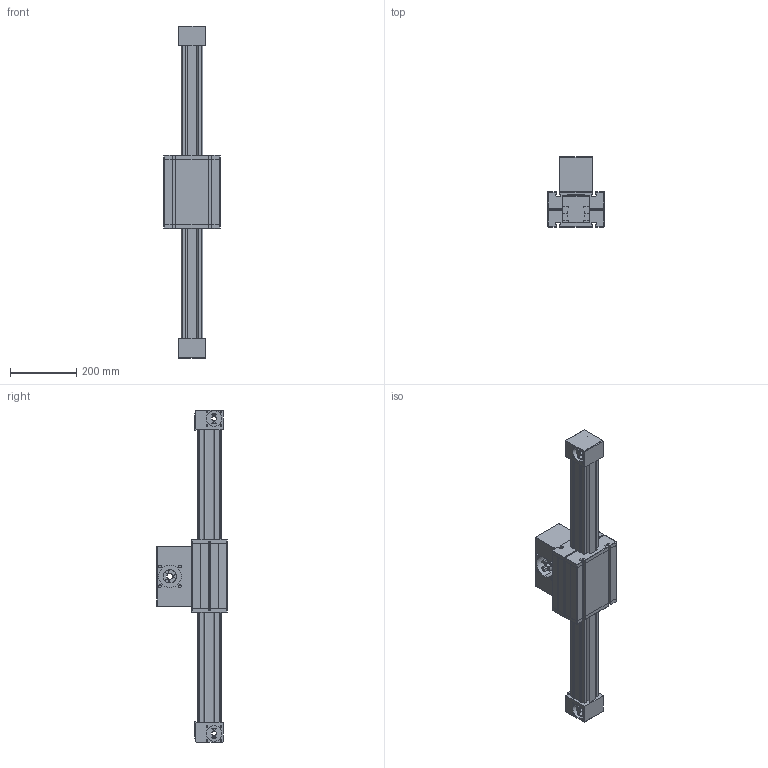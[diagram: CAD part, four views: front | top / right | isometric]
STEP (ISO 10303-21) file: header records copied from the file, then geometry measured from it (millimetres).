
FILE_DESCRIPTION (( 'STEP AP214' ), '1' );
FILE_NAME ('ELZT60S.STEP', '2022-07-19T13:06:37', ( '' ), ( '' ), 'SwSTEP 2.0', 'SolidWorks 2020', '' );
FILE_SCHEMA (( 'AUTOMOTIVE_DESIGN' ));
Length unit declared in the file: millimetre
Products named in the file (6): timing belt reverse unit^ELZT60S_coupling claw pos.1; profile^ELZT60S_4x guide rods; carriage^ELZT60S_carriage version 0; ELZT60S; timing belt reverse unit^ELZT60S_coupling claw pos.2; timing belt reverse unit carriage^ELZT60S_coupling claw pos.1
Assembly tree (6 placements, depth 2):
  ELZT60S
    profile^ELZT60S_4x guide rods
    carriage^ELZT60S_carriage version 0  x2
    timing belt reverse unit^ELZT60S_coupling claw pos.1
    timing belt reverse unit^ELZT60S_coupling claw pos.2
    timing belt reverse unit carriage^ELZT60S_coupling claw pos.1
Bounding box: 170 x 211 x 1000 mm (x, y, z)
Volume: 8341354.1 mm3; surface area: 1083141.5 mm2
Topology: 18 solids, 18 shells, 748 faces, 1978 edges, 1264 vertices
Faces by surface type: plane 376, cylinder 294, cone 58, torus 16, sphere 4
Entity records: 16768 total; most frequent: CARTESIAN_POINT 2862, DIRECTION 2860, ORIENTED_EDGE 2686, EDGE_CURVE 1343, AXIS2_PLACEMENT_3D 1000, VERTEX_POINT 870, VECTOR 860, LINE 860
